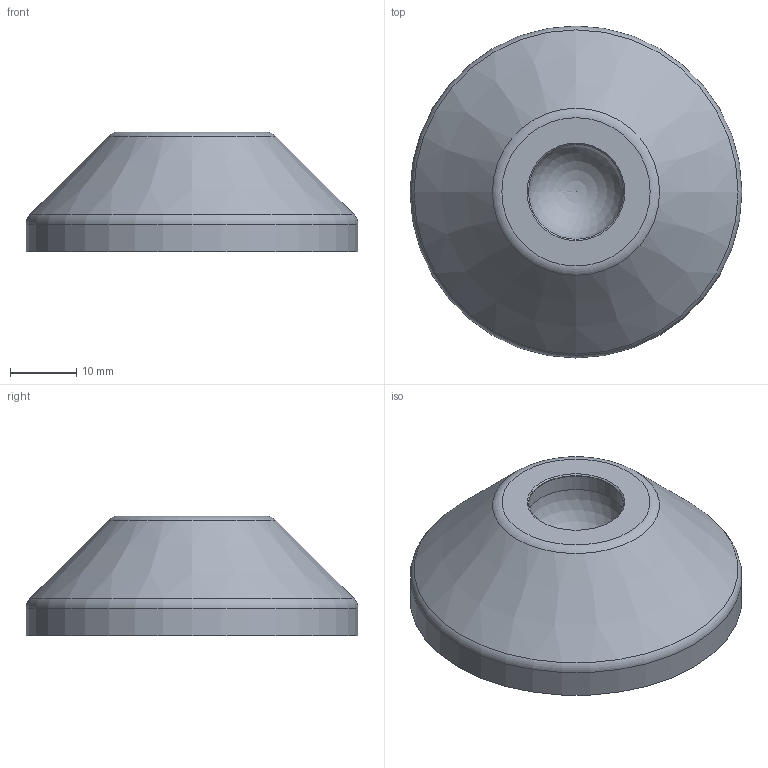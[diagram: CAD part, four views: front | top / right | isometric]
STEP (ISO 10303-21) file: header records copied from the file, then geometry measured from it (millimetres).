
FILE_DESCRIPTION(('STEP AP203'), '1');
FILE_NAME('A00015.1050 _ Îñíîâàíèÿ øàðíèðíûõ îïîð èç ïëàñòèêà, 20°', '', ('UNSPECIFIED'), ('UNSPECIFIED'), 'C3D Converter', 'C3D Toolkit', '');
FILE_SCHEMA(('CONFIG_CONTROL_DESIGN'));
Length unit declared in the file: millimetre
Products named in the file (1): A00015.1050
Bounding box: 50 x 50 x 18 mm (x, y, z)
Volume: 15411 mm3; surface area: 7753.5 mm2
Topology: 1 solids, 1 shells, 146 faces, 393 edges, 259 vertices
Faces by surface type: plane 68, cylinder 46, torus 29, cone 2, sphere 1
Full cylindrical faces by diameter (mm): 4 x8, 14.3 x1, 15 x2, 15.5 x1, 39 x1, 50 x1
Entity records: 7239 total; most frequent: CARTESIAN_POINT 3599, DIRECTION 762, ORIENTED_EDGE 740, EDGE_CURVE 370, AXIS2_PLACEMENT_3D 309, VERTEX_POINT 258, EDGE_LOOP 178, CIRCLE 162
